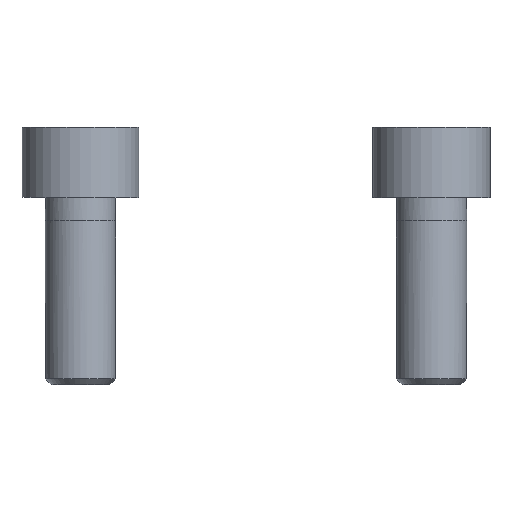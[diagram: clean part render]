
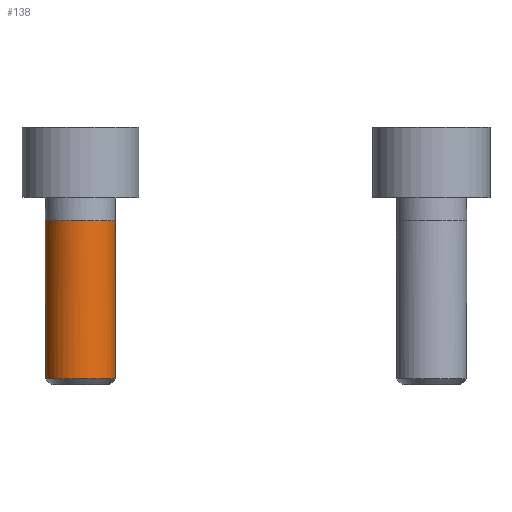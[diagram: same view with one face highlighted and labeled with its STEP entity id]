
A CAD part, front view. The second image highlights one B-rep face of the part: STEP entity #138.
In plain terms, the highlighted cylindrical face has radius 3 mm (diameter 6 mm), a full revolution.
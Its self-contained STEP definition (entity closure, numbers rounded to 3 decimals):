
#138 = ADVANCED_FACE( '', ( #291, #292 ), #293, .T. );
#291 = FACE_OUTER_BOUND( '', #530, .T. );
#292 = FACE_OUTER_BOUND( '', #531, .T. );
#293 = CYLINDRICAL_SURFACE( '', #532, 3. );
#530 = EDGE_LOOP( '', ( #785 ) );
#531 = EDGE_LOOP( '', ( #786 ) );
#532 = AXIS2_PLACEMENT_3D( '', #787, #788, #789 );
#785 = ORIENTED_EDGE( '', *, *, #1092, .T. );
#786 = ORIENTED_EDGE( '', *, *, #1094, .T. );
#787 = CARTESIAN_POINT( '', ( -15., -15., 18.153 ) );
#788 = DIRECTION( '', ( 0., 0., 1. ) );
#789 = DIRECTION( '', ( -1., 0., 0. ) );
#1092 = EDGE_CURVE( '', #1253, #1253, #1254, .T. );
#1094 = EDGE_CURVE( '', #1256, #1256, #1257, .T. );
#1253 = VERTEX_POINT( '', #1466 );
#1254 = CIRCLE( '', #1467, 3. );
#1256 = VERTEX_POINT( '', #1469 );
#1257 = B_SPLINE_CURVE_WITH_KNOTS( '', 3, ( #1470, #1471, #1472, #1473, #1474, #1475, #1476, #1477, #1478, #1479, #1480, #1481, #1482, #1483, #1484, #1485, #1486, #1487, #1488, #1489, #1490, #1491, #1492, #1493, #1494, #1495, #1496, #1497, #1498, #1499, #1500, #1501, #1502, #1503 ), .UNSPECIFIED., .T., .F., ( 2, 2, 2, 2, 2, 2, 2, 2, 2, 2, 2, 2, 2, 2, 2, 2, 2, 2, 2 ), ( -0.062, 0., 0.063, 0.125, 0.188, 0.25, 0.313, 0.375, 0.438, 0.5, 0.563, 0.625, 0.688, 0.75, 0.813, 0.875, 0.938, 1., 1.063 ), .UNSPECIFIED. );
#1466 = CARTESIAN_POINT( '', ( -12., -15., -7.5 ) );
#1467 = AXIS2_PLACEMENT_3D( '', #1756, #1757, #1758 );
#1469 = CARTESIAN_POINT( '', ( -12., -15., 6. ) );
#1470 = CARTESIAN_POINT( '', ( -12., -14.607, 6. ) );
#1471 = CARTESIAN_POINT( '', ( -12., -15.393, 6. ) );
#1472 = CARTESIAN_POINT( '', ( -12.078, -15.785, 6. ) );
#1473 = CARTESIAN_POINT( '', ( -12.379, -16.511, 6. ) );
#1474 = CARTESIAN_POINT( '', ( -12.601, -16.844, 6. ) );
#1475 = CARTESIAN_POINT( '', ( -13.156, -17.399, 6. ) );
#1476 = CARTESIAN_POINT( '', ( -13.489, -17.621, 6. ) );
#1477 = CARTESIAN_POINT( '', ( -14.215, -17.922, 6. ) );
#1478 = CARTESIAN_POINT( '', ( -14.607, -18., 6. ) );
#1479 = CARTESIAN_POINT( '', ( -15.393, -18., 6. ) );
#1480 = CARTESIAN_POINT( '', ( -15.785, -17.922, 6. ) );
#1481 = CARTESIAN_POINT( '', ( -16.511, -17.621, 6. ) );
#1482 = CARTESIAN_POINT( '', ( -16.844, -17.399, 6. ) );
#1483 = CARTESIAN_POINT( '', ( -17.399, -16.844, 6. ) );
#1484 = CARTESIAN_POINT( '', ( -17.621, -16.511, 6. ) );
#1485 = CARTESIAN_POINT( '', ( -17.922, -15.785, 6. ) );
#1486 = CARTESIAN_POINT( '', ( -18., -15.393, 6. ) );
#1487 = CARTESIAN_POINT( '', ( -18., -14.607, 6. ) );
#1488 = CARTESIAN_POINT( '', ( -17.922, -14.215, 6. ) );
#1489 = CARTESIAN_POINT( '', ( -17.621, -13.489, 6. ) );
#1490 = CARTESIAN_POINT( '', ( -17.399, -13.156, 6. ) );
#1491 = CARTESIAN_POINT( '', ( -16.844, -12.601, 6. ) );
#1492 = CARTESIAN_POINT( '', ( -16.511, -12.379, 6. ) );
#1493 = CARTESIAN_POINT( '', ( -15.785, -12.078, 6. ) );
#1494 = CARTESIAN_POINT( '', ( -15.393, -12., 6. ) );
#1495 = CARTESIAN_POINT( '', ( -14.607, -12., 6. ) );
#1496 = CARTESIAN_POINT( '', ( -14.215, -12.078, 6. ) );
#1497 = CARTESIAN_POINT( '', ( -13.489, -12.379, 6. ) );
#1498 = CARTESIAN_POINT( '', ( -13.156, -12.601, 6. ) );
#1499 = CARTESIAN_POINT( '', ( -12.601, -13.156, 6. ) );
#1500 = CARTESIAN_POINT( '', ( -12.379, -13.489, 6. ) );
#1501 = CARTESIAN_POINT( '', ( -12.078, -14.215, 6. ) );
#1502 = CARTESIAN_POINT( '', ( -12., -14.607, 6. ) );
#1503 = CARTESIAN_POINT( '', ( -12., -15.393, 6. ) );
#1756 = CARTESIAN_POINT( '', ( -15., -15., -7.5 ) );
#1757 = DIRECTION( '', ( 0., 0., 1. ) );
#1758 = DIRECTION( '', ( 1., 0., 0. ) );
